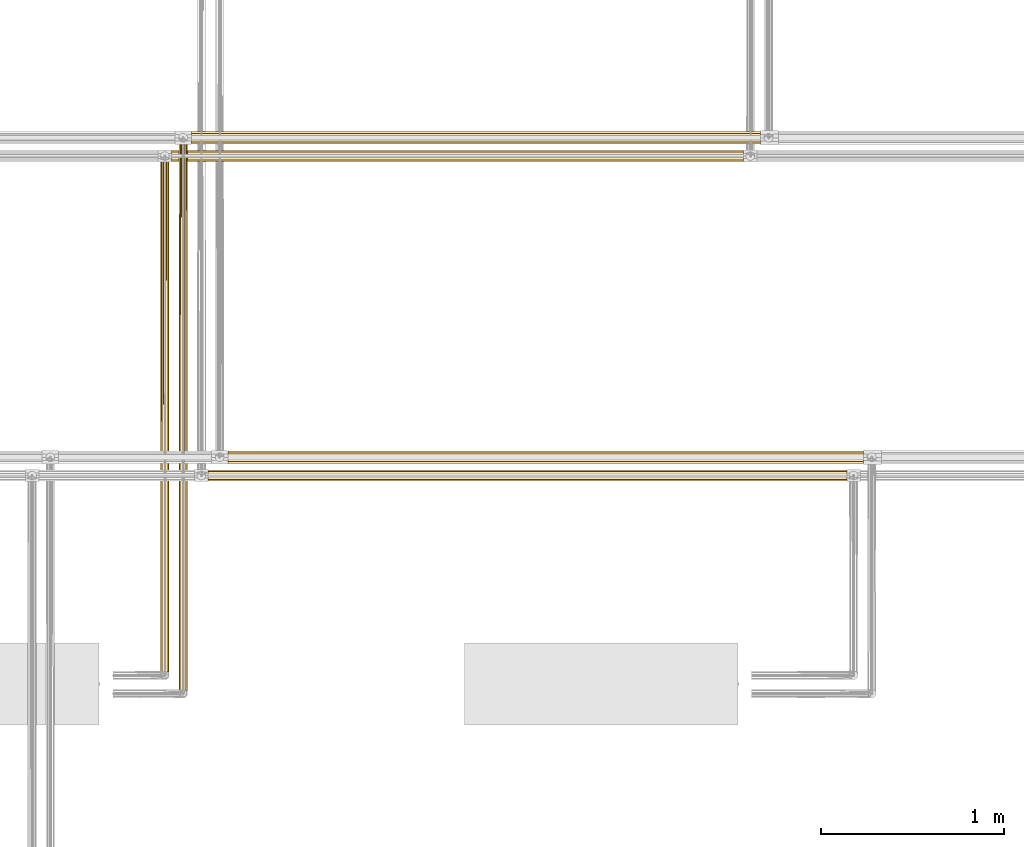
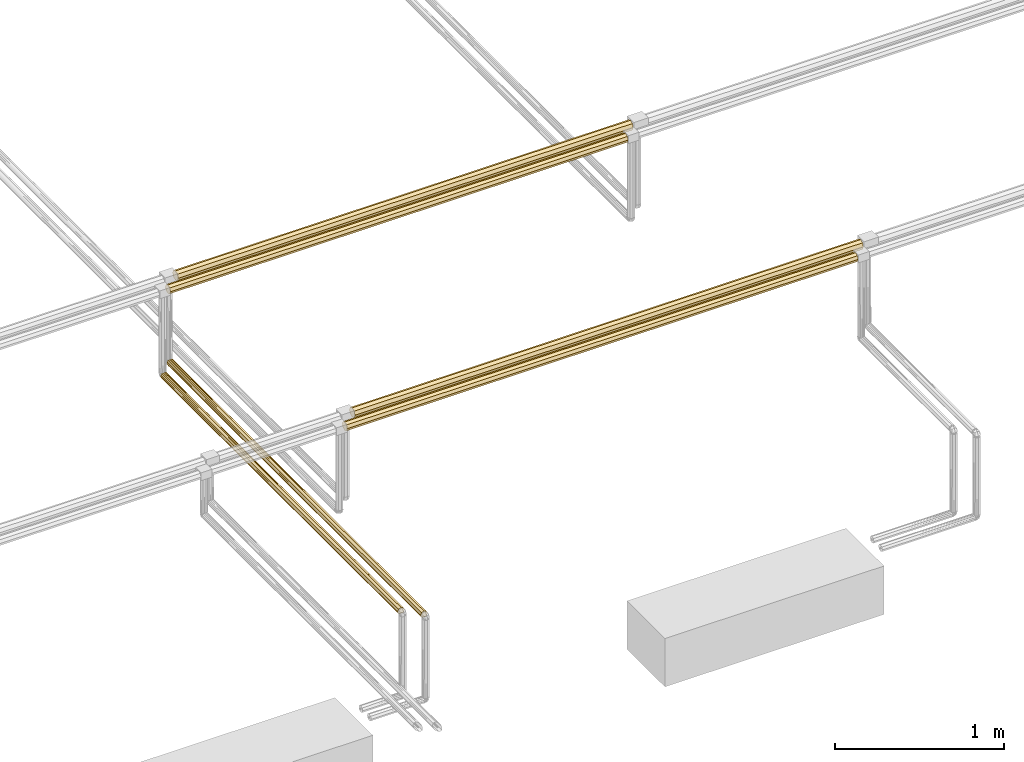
# One storey, part 127 of 652: 6 coverings.
"""IFC2X3 building model written with IfcOpenShell, lengths in millimetres."""

from ifc_helpers import new_model, entity, si_unit, converted_unit, direction, frame, origin, place, context, subcontext, project, spatial, faceted_brep, material, type_object, element, save


model = new_model("IFC2X3")

# Units and contexts
model_context = context("Model", 3, precision=0.01, world=frame((0.0, 0.0, 308426.39999999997)), true_north=direction((6.123233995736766e-17, 1.0)))
plan_context = context("Plan", 3, precision=0.01, world=frame((0.0, 0.0, 308426.39999999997)), true_north=direction((6.123233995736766e-17, 1.0)))
body_context = subcontext(model_context, "Body", "Model", "MODEL_VIEW")
ifc_project = project(units=[si_unit("LENGTHUNIT", "METRE", prefix="MILLI"), si_unit("AREAUNIT", "SQUARE_METRE"), si_unit("VOLUMEUNIT", "CUBIC_METRE"), converted_unit("PLANEANGLEUNIT", "DEGREE", entity("IfcPlaneAngleMeasure", 0.017453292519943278), si_unit("PLANEANGLEUNIT", "RADIAN"), dimensions=[0, 0, 0, 0, 0, 0, 0])], contexts=[model_context, plan_context])

# Site, building, storey
site_placement = place(None, origin())
site = spatial("IfcSite", under=ifc_project, at=site_placement, Name="Default", CompositionType="ELEMENT")
building_placement = place(site_placement, origin())
building = spatial("IfcBuilding", under=site, at=building_placement, CompositionType="ELEMENT")
storey_placement = place(building_placement, frame((0.0, 0.0, 1730.6999999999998)))
storey = spatial("IfcBuildingStorey", under=building, at=storey_placement, Name="EG_Produktion_FFB", CompositionType="ELEMENT", Elevation=1730.6999999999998)

# Coverings
ifc_material = material(Name="Dämmung - Armaflex-Schlauch")
covering_type = type_object("IfcCoveringType", Name="Rohrdämmung außen:Armaflex-Schlauch", PredefinedType="INSULATION")
covering_1_placement = place(storey_placement, frame((59105.74775000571, 69880.11722776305, 3865.1172277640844)))
element("IfcCovering", 1, at=covering_1_placement, inside=storey, type_object=covering_type, material=ifc_material, Name="Rohrdämmung außen:Armaflex-Schlauch", ObjectType="Rohrdämmung außen:Armaflex-Schlauch", PredefinedType="INSULATION", context=body_context, shape_type="Brep", body=[
    faceted_brep([(0.0, 1.5952722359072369, 34.88277223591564), (0.0, 3.836593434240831, 40.293800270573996), (0.0, 6.470113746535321, 46.65168072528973), (0.0, 8.907534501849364, 52.53613496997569), (0.0, 11.344955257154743, 58.42058921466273), (0.0, 17.229409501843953, 60.85800996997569), (0.0, 23.113863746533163, 63.295430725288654), (0.0, 28.99831799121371, 65.73285148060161), (0.0, 34.88277223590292, 68.17027223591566), (0.0, 40.29380027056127, 65.92895103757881), (0.0, 46.65168072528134, 63.295430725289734), (0.0, 52.536134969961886, 60.85800996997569), (0.0, 58.420589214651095, 58.42058921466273), (0.0, 60.85800996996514, 52.53613496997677), (0.0, 63.295430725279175, 46.65168072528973), (0.0, 65.73285148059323, 40.76722648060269), (0.0, 68.1702722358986, 34.88277223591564), (0.0, 65.73285148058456, 28.9983179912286), (0.0, 63.295430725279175, 23.113863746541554), (0.0, 60.85800996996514, 17.229409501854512), (0.0, 58.420589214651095, 11.34495525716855), (0.0, 52.536134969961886, 8.90753450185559), (0.0, 46.651680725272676, 6.470113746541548), (0.0, 40.76722648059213, 4.032692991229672), (0.0, 34.88277223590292, 1.595272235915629), (0.0, 29.471744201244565, 3.8365934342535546), (0.0, 23.113863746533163, 6.470113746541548), (0.0, 17.229409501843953, 8.90753450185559), (0.0, 11.344955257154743, 11.34495525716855), (0.0, 8.907534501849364, 17.229409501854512), (0.0, 6.470113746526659, 23.113863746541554), (0.0, 4.0326929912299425, 28.9983179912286), (3115.8169331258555, 17.229409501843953, 8.90753450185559), (3115.8169331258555, 23.113863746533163, 6.470113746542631), (3115.8169331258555, 28.998317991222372, 4.032692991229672), (3115.8169331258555, 34.88277223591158, 1.5952722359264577), (3115.8169331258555, 40.29380027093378, 3.8365934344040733), (3115.8169331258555, 45.70482830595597, 6.077914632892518), (3115.8169331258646, 52.06270876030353, 8.711434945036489), (3115.8169331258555, 58.420589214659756, 11.344955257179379), (3115.8169331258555, 60.8580099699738, 17.22940950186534), (3115.8169331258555, 63.295430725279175, 23.113863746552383), (3115.8169331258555, 65.73285148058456, 28.99831799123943), (3115.8169331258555, 68.17027223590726, 34.88277223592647), (3115.8169331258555, 65.92895103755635, 40.29380027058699), (3115.8169331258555, 63.68762983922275, 45.70482830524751), (3115.816933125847, 61.05410952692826, 52.06270875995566), (3115.8169331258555, 58.420589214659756, 58.42058921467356), (3115.8169331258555, 52.53613496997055, 60.85800996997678), (3115.8169331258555, 46.65168072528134, 63.295430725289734), (3115.8169331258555, 40.76722648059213, 65.73285148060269), (3115.8169331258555, 34.88277223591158, 68.17027223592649), (3115.8169331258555, 29.471744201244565, 65.92895103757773), (3115.8169331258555, 24.06071616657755, 63.687629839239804), (3115.8169331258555, 17.702835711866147, 61.05410952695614), (3115.8169331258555, 11.344955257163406, 58.42058921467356), (3115.8169331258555, 8.907534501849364, 52.53613496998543), (3115.8169331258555, 6.470113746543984, 46.65168072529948), (3115.8169331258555, 4.032692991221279, 40.76722648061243), (3115.8169331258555, 1.5952722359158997, 34.88277223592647), (3115.8169331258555, 3.836593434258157, 29.471744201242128), (3115.8169331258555, 6.077914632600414, 24.06071616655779), (3115.8169331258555, 8.71143494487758, 17.70283571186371), (3115.8169331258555, 11.344955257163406, 11.344955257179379)], [[[0, 1, 2, 3, 4, 5, 6, 7, 8, 9, 10, 11, 12, 13, 14, 15, 16, 17, 18, 19, 20, 21, 22, 23, 24, 25, 26, 27, 28, 29, 30, 31]], [[32, 33, 34, 35, 36, 37, 38, 39, 40, 41, 42, 43, 44, 45, 46, 47, 48, 49, 50, 51, 52, 53, 54, 55, 56, 57, 58, 59, 60, 61, 62, 63]], [[41, 40, 39, 20, 19, 18, 17, 16, 43, 42]], [[37, 36, 35, 24, 23, 22, 21, 20, 39, 38]], [[25, 24, 35, 34, 33, 32, 63, 28, 27, 26]], [[28, 63, 62, 61, 60, 59, 0, 31, 30, 29]], [[1, 0, 59, 58, 57, 56, 55, 4, 3, 2]], [[4, 55, 54, 53, 52, 51, 8, 7, 6, 5]], [[9, 8, 51, 50, 49, 48, 47, 12, 11, 10]], [[12, 47, 46, 45, 44, 43, 16, 15, 14, 13]]]),
])
covering_2_placement = place(storey_placement, frame((59305.74775000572, 68130.11722776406, 3865.117227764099)))
element("IfcCovering", 2, at=covering_2_placement, inside=storey, type_object=covering_type, material=ifc_material, Name="Rohrdämmung außen:Armaflex-Schlauch", ObjectType="Rohrdämmung außen:Armaflex-Schlauch", PredefinedType="INSULATION", context=body_context, shape_type="Brep", body=[
    faceted_brep([(3480.8169331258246, 68.17027223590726, 34.882772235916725), (3480.8169331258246, 66.16397696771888, 39.726397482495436), (3480.8169331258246, 63.295430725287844, 46.65168072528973), (3480.8169331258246, 60.8580099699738, 52.53613496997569), (3480.8169331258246, 58.420589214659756, 58.42058921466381), (3480.8169331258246, 52.53613496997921, 60.85800996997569), (3480.8169331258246, 46.65168072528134, 63.295430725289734), (3480.8169331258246, 40.76722648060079, 65.73285148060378), (3480.8169331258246, 34.88277223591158, 68.17027223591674), (3480.816933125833, 30.03914698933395, 66.1639769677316), (3480.8169331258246, 23.113863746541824, 63.29543072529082), (3480.8169331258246, 17.229409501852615, 60.85800996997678), (3480.8169331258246, 11.344955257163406, 58.42058921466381), (3480.8169331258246, 8.907534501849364, 52.53613496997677), (3480.8169331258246, 6.470113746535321, 46.65168072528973), (3480.8169331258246, 4.0326929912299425, 40.76722648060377), (3480.8169331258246, 1.5952722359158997, 34.882772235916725), (3480.8169331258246, 4.0326929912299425, 28.998317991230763), (3480.8169331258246, 6.470113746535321, 23.11386374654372), (3480.816933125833, 8.907534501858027, 17.229409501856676), (3480.8169331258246, 11.344955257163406, 11.344955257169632), (3480.8169331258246, 17.229409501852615, 8.907534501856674), (3480.8169331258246, 23.113863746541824, 6.4701137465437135), (3480.816933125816, 28.998317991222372, 4.032692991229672), (3480.8169331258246, 34.88277223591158, 1.595272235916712), (3480.8169331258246, 39.72639748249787, 3.6015675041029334), (3480.8169331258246, 46.65168072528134, 6.4701137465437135), (3480.8169331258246, 52.53613496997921, 8.907534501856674), (3480.8169331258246, 58.420589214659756, 11.344955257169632), (3480.8169331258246, 60.8580099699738, 17.229409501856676), (3480.8169331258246, 63.295430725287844, 23.11386374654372), (3480.8169331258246, 65.73285148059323, 28.99831799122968), (0.0, 52.53613496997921, 8.907534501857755), (0.0, 46.65168072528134, 6.4701137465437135), (0.0, 40.76722648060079, 4.032692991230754), (0.0, 34.88277223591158, 1.5952722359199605), (0.0, 25.195521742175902, 5.607862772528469), (0.0, 18.270238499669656, 8.476409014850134), (0.0, 11.344955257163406, 11.344955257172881), (0.0, 8.907534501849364, 17.229409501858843), (0.0, 6.470113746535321, 23.113863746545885), (0.0, 4.0326929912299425, 28.99831799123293), (0.0, 1.5952722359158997, 34.88277223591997), (0.0, 5.607862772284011, 44.57002272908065), (0.0, 8.476409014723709, 51.495305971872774), (0.0, 11.344955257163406, 58.42058921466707), (0.0, 17.229409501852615, 60.85800996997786), (0.0, 23.113863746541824, 63.29543072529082), (0.0, 28.998317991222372, 65.73285148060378), (0.0, 34.88277223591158, 68.17027223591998), (0.0, 44.570022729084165, 64.15768169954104), (0.0, 51.49530597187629, 61.28913545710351), (0.0, 58.420589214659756, 58.42058921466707), (0.0, 60.8580099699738, 52.53613496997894), (0.0, 63.295430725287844, 46.6516807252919), (0.0, 65.73285148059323, 40.767226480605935), (0.0, 68.17027223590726, 34.88277223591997), (0.0, 64.15768169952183, 25.195521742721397), (0.0, 61.289135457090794, 18.270238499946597), (0.0, 58.420589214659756, 11.344955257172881)], [[[0, 1, 2, 3, 4, 5, 6, 7, 8, 9, 10, 11, 12, 13, 14, 15, 16, 17, 18, 19, 20, 21, 22, 23, 24, 25, 26, 27, 28, 29, 30, 31]], [[32, 33, 34, 35, 36, 37, 38, 39, 40, 41, 42, 43, 44, 45, 46, 47, 48, 49, 50, 51, 52, 53, 54, 55, 56, 57, 58, 59]], [[40, 39, 38, 20, 19, 18, 17, 16, 42, 41]], [[36, 35, 24, 23, 22, 21, 20, 38, 37]], [[33, 32, 59, 28, 27, 26, 25, 24, 35, 34]], [[28, 59, 58, 57, 56, 0, 31, 30, 29]], [[54, 53, 52, 4, 3, 2, 1, 0, 56, 55]], [[4, 52, 51, 50, 49, 8, 7, 6, 5]], [[47, 46, 45, 12, 11, 10, 9, 8, 49, 48]], [[12, 45, 44, 43, 42, 16, 15, 14, 13]]]),
])
covering_3_placement = place(storey_placement, frame((58997.048250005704, 69783.29222776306, 3868.2922277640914)))
element("IfcCovering", 3, at=covering_3_placement, inside=storey, type_object=covering_type, material=ifc_material, Name="Rohrdämmung außen:Armaflex-Schlauch", ObjectType="Rohrdämmung außen:Armaflex-Schlauch", PredefinedType="INSULATION", context=body_context, shape_type="Brep", body=[
    faceted_brep([(3133.215933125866, 61.82027223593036, 31.707772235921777), (3133.215933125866, 59.9025568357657, 36.33754676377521), (3133.215933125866, 57.410398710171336, 42.35414871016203), (3133.215933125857, 55.205461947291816, 47.67733694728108), (3133.215933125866, 53.000525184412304, 53.000525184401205), (3133.215933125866, 47.67733694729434, 55.20546194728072), (3133.215933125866, 42.35414871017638, 57.41039871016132), (3133.215933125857, 37.03096047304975, 59.61533547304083), (3133.215933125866, 31.707772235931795, 61.82027223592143), (3133.215933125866, 27.077997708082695, 59.90255683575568), (3133.215933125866, 21.06139576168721, 57.41039871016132), (3133.215933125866, 15.738207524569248, 55.2054619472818), (3133.215933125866, 10.415019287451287, 53.000525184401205), (3133.215933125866, 8.210082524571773, 47.67733694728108), (3133.215933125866, 6.005145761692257, 42.35414871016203), (3133.215933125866, 3.800208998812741, 37.0309604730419), (3133.215933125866, 1.5952722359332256, 31.707772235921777), (3133.215933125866, 3.800208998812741, 26.384583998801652), (3133.215933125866, 6.005145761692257, 21.061395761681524), (3133.215933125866, 8.210082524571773, 15.73820752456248), (3133.215933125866, 10.415019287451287, 10.415019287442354), (3133.215933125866, 15.738207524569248, 8.210082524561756), (3133.215933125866, 21.06139576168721, 6.00514576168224), (3133.215933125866, 26.384583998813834, 3.8002089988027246), (3133.215933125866, 31.707772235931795, 1.5952722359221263), (3133.215933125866, 36.33754676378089, 3.5129876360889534), (3133.215933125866, 42.35414871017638, 6.00514576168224), (3133.215933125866, 47.677336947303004, 8.210082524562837), (3133.215933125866, 53.000525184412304, 10.415019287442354), (3133.215933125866, 55.205461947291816, 15.73820752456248), (3133.215933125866, 57.410398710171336, 21.061395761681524), (3133.215933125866, 59.61533547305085, 26.384583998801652), (0.0, 47.67733694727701, 8.210082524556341), (0.0, 42.35414871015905, 6.005145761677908), (0.0, 37.03096047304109, 3.8002089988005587), (0.0, 31.70777223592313, 1.595272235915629), (0.0, 22.448223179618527, 5.430703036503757), (0.0, 16.43162123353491, 7.922861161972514), (0.0, 10.415019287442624, 10.415019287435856), (0.0, 8.210082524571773, 15.738207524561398), (0.0, 6.005145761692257, 21.061395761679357), (0.0, 3.800208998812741, 26.384583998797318), (0.0, 1.5952722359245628, 31.707772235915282), (0.0, 5.430703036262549, 40.967321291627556), (0.0, 7.922861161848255, 46.98392323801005), (0.0, 10.415019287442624, 53.000525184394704), (0.0, 15.738207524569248, 55.2054619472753), (0.0, 21.06139576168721, 57.41039871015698), (0.0, 26.384583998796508, 59.61533547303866), (0.0, 31.70777223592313, 61.820272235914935), (0.0, 40.967321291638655, 57.984841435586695), (0.0, 46.983923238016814, 55.49268330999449), (0.0, 53.000525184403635, 53.000525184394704), (0.0, 55.205461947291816, 47.67733694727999), (0.0, 57.410398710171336, 42.35414871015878), (0.0, 59.61533547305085, 37.030960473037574), (0.0, 61.8202722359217, 31.707772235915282), (0.0, 57.98484143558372, 22.44822318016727), (0.0, 55.492683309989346, 16.431621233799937), (0.0, 53.000525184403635, 10.415019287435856)], [[[0, 1, 2, 3, 4, 5, 6, 7, 8, 9, 10, 11, 12, 13, 14, 15, 16, 17, 18, 19, 20, 21, 22, 23, 24, 25, 26, 27, 28, 29, 30, 31]], [[32, 33, 34, 35, 36, 37, 38, 39, 40, 41, 42, 43, 44, 45, 46, 47, 48, 49, 50, 51, 52, 53, 54, 55, 56, 57, 58, 59]], [[40, 39, 38, 20, 19, 18, 17, 16, 42, 41]], [[36, 35, 24, 23, 22, 21, 20, 38, 37]], [[33, 32, 59, 28, 27, 26, 25, 24, 35, 34]], [[28, 59, 58, 57, 56, 0, 31, 30, 29]], [[54, 53, 52, 4, 3, 2, 1, 0, 56, 55]], [[4, 52, 51, 50, 49, 8, 7, 6, 5]], [[47, 46, 45, 12, 11, 10, 9, 8, 49, 48]], [[12, 45, 44, 43, 42, 16, 15, 14, 13]]]),
])
covering_4_placement = place(storey_placement, frame((59197.04825000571, 68033.29222776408, 3868.292227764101)))
element("IfcCovering", 4, at=covering_4_placement, inside=storey, type_object=covering_type, material=ifc_material, Name="Rohrdämmung außen:Armaflex-Schlauch", ObjectType="Rohrdämmung außen:Armaflex-Schlauch", PredefinedType="INSULATION", context=body_context, shape_type="Brep", body=[
    faceted_brep([(3498.215933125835, 61.82027223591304, 31.707772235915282), (3498.215933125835, 60.10264914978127, 35.85448118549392), (3498.215933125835, 57.410398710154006, 42.354148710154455), (3498.215933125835, 55.205461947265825, 47.677336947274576), (3498.215933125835, 53.000525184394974, 53.000525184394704), (3498.215933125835, 47.67733694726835, 55.2054619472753), (3498.215933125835, 42.35414871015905, 57.410398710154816), (3498.215933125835, 37.03096047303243, 59.615335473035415), (3498.215933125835, 31.70777223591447, 61.820272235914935), (3498.215933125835, 27.5610632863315, 60.10264914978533), (3498.215933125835, 21.061395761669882, 57.410398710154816), (3498.2159331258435, 15.738207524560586, 55.2054619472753), (3498.215933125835, 10.415019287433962, 53.000525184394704), (3498.215933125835, 8.210082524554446, 47.677336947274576), (3498.215933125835, 6.005145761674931, 42.354148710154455), (3498.2159331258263, 3.8002089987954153, 37.03096047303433), (3498.215933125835, 1.5952722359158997, 31.707772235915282), (3498.215933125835, 3.8002089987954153, 26.384583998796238), (3498.215933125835, 6.005145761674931, 21.06139576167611), (3498.215933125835, 8.210082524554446, 15.738207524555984), (3498.215933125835, 10.415019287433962, 10.415019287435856), (3498.215933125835, 15.738207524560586, 8.210082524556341), (3498.215933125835, 21.061395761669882, 6.005145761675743), (3498.215933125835, 26.384583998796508, 3.8002089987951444), (3498.215933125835, 31.70777223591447, 1.595272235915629), (3498.215933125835, 35.854481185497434, 3.3128953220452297), (3498.215933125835, 42.35414871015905, 6.005145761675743), (3498.215933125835, 47.67733694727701, 8.210082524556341), (3498.215933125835, 53.000525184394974, 10.415019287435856), (3498.215933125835, 55.20546194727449, 15.738207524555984), (3498.215933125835, 57.410398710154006, 21.06139576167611), (3498.215933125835, 59.615335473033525, 26.384583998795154), (0.0, 47.67733694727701, 8.210082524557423), (0.0, 42.35414871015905, 6.005145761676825), (0.0, 37.03096047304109, 3.8002089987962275), (0.0, 31.70777223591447, 1.5952722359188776), (0.0, 23.414354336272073, 5.030518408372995), (0.0, 16.914686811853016, 7.722768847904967), (0.0, 10.415019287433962, 10.415019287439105), (0.0, 8.210082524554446, 15.738207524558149), (0.0, 6.005145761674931, 21.061395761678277), (0.0, 3.8002089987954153, 26.3845839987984), (0.0, 1.5952722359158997, 31.70777223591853), (0.0, 5.03051840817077, 40.00119013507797), (0.0, 7.722768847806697, 46.5008576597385), (0.0, 10.415019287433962, 53.00052518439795), (0.0, 15.738207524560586, 55.20546194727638), (0.0, 21.061395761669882, 57.4103987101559), (0.0, 26.384583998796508, 59.615335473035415), (0.0, 31.70777223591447, 61.82027223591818), (0.0, 40.0011901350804, 58.38502606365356), (0.0, 46.500857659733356, 55.69277562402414), (0.0, 53.000525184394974, 53.00052518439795), (0.0, 55.20546194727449, 47.67733694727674), (0.0, 57.410398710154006, 42.354148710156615), (0.0, 59.615335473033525, 37.030960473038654), (0.0, 61.82027223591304, 31.70777223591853), (0.0, 58.385026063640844, 23.414354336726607), (0.0, 55.69277562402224, 16.914686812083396), (0.0, 53.000525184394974, 10.415019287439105)], [[[0, 1, 2, 3, 4, 5, 6, 7, 8, 9, 10, 11, 12, 13, 14, 15, 16, 17, 18, 19, 20, 21, 22, 23, 24, 25, 26, 27, 28, 29, 30, 31]], [[32, 33, 34, 35, 36, 37, 38, 39, 40, 41, 42, 43, 44, 45, 46, 47, 48, 49, 50, 51, 52, 53, 54, 55, 56, 57, 58, 59]], [[40, 39, 38, 20, 19, 18, 17, 16, 42, 41]], [[36, 35, 24, 23, 22, 21, 20, 38, 37]], [[33, 32, 59, 28, 27, 26, 25, 24, 35, 34]], [[28, 59, 58, 57, 56, 0, 31, 30, 29]], [[54, 53, 52, 4, 3, 2, 1, 0, 56, 55]], [[4, 52, 51, 50, 49, 8, 7, 6, 5]], [[47, 46, 45, 12, 11, 10, 9, 8, 49, 48]], [[12, 45, 44, 43, 42, 16, 15, 14, 13]]]),
])
covering_5_placement = place(storey_placement, frame((59034.64222776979, 66886.39153550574, 3274.6422277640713)))
element("IfcCovering", 5, at=covering_5_placement, inside=storey, type_object=covering_type, material=ifc_material, Name="Rohrdämmung außen:Armaflex-Schlauch", ObjectType="Rohrdämmung außen:Armaflex-Schlauch", PredefinedType="INSULATION", context=body_context, shape_type="Brep", body=[
    faceted_brep([(9.787128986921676, 3010.6582144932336, 43.30802223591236), (40.92841548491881, 3010.6582144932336, 43.30802223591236), (43.951164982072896, 3010.6582144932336, 39.26743877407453), (46.973914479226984, 3010.6582144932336, 35.22685531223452), (48.047093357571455, 3010.6582144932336, 30.292313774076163), (49.12027223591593, 3010.6582144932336, 25.357772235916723), (47.3803034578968, 3010.6582144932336, 21.15711601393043), (45.64033467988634, 3010.6582144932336, 16.956459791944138), (43.90036590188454, 3010.6582144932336, 12.755803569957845), (42.160397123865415, 3010.6582144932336, 8.555147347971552), (37.95974090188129, 3010.6582144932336, 6.815178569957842), (33.759084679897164, 3010.6582144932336, 5.075209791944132), (29.558428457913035, 3010.6582144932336, 3.335241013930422), (25.357772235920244, 3010.6582144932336, 1.595272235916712), (21.157116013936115, 3010.6582144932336, 3.335241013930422), (16.956459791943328, 3010.6582144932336, 5.075209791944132), (12.755803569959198, 3010.6582144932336, 6.815178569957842), (8.55514734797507, 3010.6582144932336, 8.555147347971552), (6.81517856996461, 3010.6582144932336, 12.755803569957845), (5.075209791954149, 3010.6582144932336, 16.956459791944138), (2.995056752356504, 3010.6582144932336, 21.97839347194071), (1.5952722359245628, 3010.6582144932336, 25.357772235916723), (2.6684511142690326, 3010.6582144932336, 30.292313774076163), (3.7416299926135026, 3010.6582144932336, 35.22685531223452), (6.764379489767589, 3010.6582144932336, 39.26743877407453), (1.5952722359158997, 1.5952722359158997, 25.357772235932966), (2.6684511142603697, 1.5952722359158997, 20.42323069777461), (3.7416299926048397, 1.5952722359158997, 15.488689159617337), (6.764379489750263, 1.5952722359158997, 11.448105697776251), (9.78712898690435, 1.5952722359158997, 7.407522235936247), (40.92841548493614, 1.5952722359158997, 7.407522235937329), (43.95116498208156, 1.5952722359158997, 11.448105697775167), (46.973914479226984, 1.5952722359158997, 15.488689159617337), (48.047093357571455, 1.5952722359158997, 20.42323069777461), (49.12027223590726, 1.5952722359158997, 25.357772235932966), (47.72048771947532, 1.5952722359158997, 28.737150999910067), (45.64033467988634, 1.5952722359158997, 33.75908467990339), (43.90036590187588, 1.5952722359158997, 37.95974090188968), (42.160397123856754, 1.5952722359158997, 42.16039712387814), (37.95974090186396, 1.5952722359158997, 43.90036590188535), (33.759084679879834, 1.5952722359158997, 45.640334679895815), (29.55842845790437, 1.5952722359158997, 47.38030345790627), (25.35777223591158, 1.5952722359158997, 49.12027223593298), (21.157116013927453, 1.5952722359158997, 47.38030345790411), (16.956459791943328, 1.5952722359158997, 45.64033467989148), (12.755803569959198, 1.5952722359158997, 43.90036590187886), (8.55514734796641, 1.5952722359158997, 42.16039712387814), (6.81517856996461, 1.5952722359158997, 37.95974090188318), (5.075209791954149, 1.5952722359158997, 33.759084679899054), (3.335241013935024, 1.5952722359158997, 29.558428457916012), (33.66781407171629, 5.90708887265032, 3.0957055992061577), (37.29811477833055, 3.75118055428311, 5.251613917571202), (29.512793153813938, 6.6573055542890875, 2.3454889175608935), (25.35777223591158, 7.407522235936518, 1.595272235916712), (21.202751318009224, 6.6573055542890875, 2.3454889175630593), (17.04773040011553, 5.9070888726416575, 3.0957055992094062), (13.41742969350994, 3.75118055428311, 5.251613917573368), (21.20275131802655, 3005.5961811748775, 48.370055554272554), (13.417429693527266, 3008.502306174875, 45.46393055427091), (17.047730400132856, 3006.3463978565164, 47.61983887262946), (25.357772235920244, 3004.84596449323, 49.12027223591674), (29.512793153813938, 3005.5961811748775, 48.37005555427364), (33.66781407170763, 3006.3463978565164, 47.61983887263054), (37.29811477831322, 3008.502306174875, 45.46393055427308)], [[[0, 1, 2, 3, 4, 5, 6, 7, 8, 9, 10, 11, 12, 13, 14, 15, 16, 17, 18, 19, 20, 21, 22, 23, 24]], [[25, 26, 27, 28, 29, 30, 31, 32, 33, 34, 35, 36, 37, 38, 39, 40, 41, 42, 43, 44, 45, 46, 47, 48, 49]], [[34, 6, 5]], [[11, 50, 12]], [[6, 34, 33]], [[33, 7, 6]], [[30, 9, 31]], [[10, 30, 51]], [[51, 50, 11]], [[52, 53, 13]], [[32, 31, 8]], [[31, 9, 8]], [[32, 8, 7]], [[12, 50, 52]], [[9, 30, 10]], [[33, 32, 7]], [[51, 11, 10]], [[52, 13, 12]], [[53, 54, 13]], [[26, 25, 20]], [[14, 54, 55]], [[27, 18, 28]], [[56, 15, 55]], [[17, 29, 28]], [[27, 26, 19]], [[19, 26, 20]], [[13, 54, 14]], [[28, 18, 17]], [[25, 21, 20]], [[27, 19, 18]], [[15, 56, 16]], [[29, 16, 56]], [[14, 55, 15]], [[16, 29, 17]], [[24, 47, 46]], [[25, 49, 21]], [[48, 23, 22]], [[48, 47, 23]], [[42, 57, 43]], [[0, 45, 58]], [[59, 44, 43]], [[22, 49, 48]], [[44, 59, 58]], [[23, 47, 24]], [[57, 59, 43]], [[21, 49, 22]], [[46, 0, 24]], [[60, 57, 42]], [[45, 0, 46]], [[45, 44, 58]], [[42, 61, 60]], [[4, 36, 35]], [[61, 42, 41]], [[62, 40, 63]], [[2, 38, 37]], [[38, 2, 1]], [[36, 4, 3]], [[1, 39, 38]], [[40, 62, 41]], [[35, 5, 4]], [[1, 63, 39]], [[37, 3, 2]], [[37, 36, 3]], [[41, 62, 61]], [[35, 34, 5]], [[63, 40, 39]], [[1, 0, 58, 59, 57, 60, 61, 62, 63]], [[30, 29, 56, 55, 54, 53, 52, 50, 51]]]),
])
covering_6_placement = place(storey_placement, frame((58934.64222776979, 66986.39153550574, 3274.642227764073)))
element("IfcCovering", 6, at=covering_6_placement, inside=storey, type_object=covering_type, material=ifc_material, Name="Rohrdämmung außen:Armaflex-Schlauch", ObjectType="Rohrdämmung außen:Armaflex-Schlauch", PredefinedType="INSULATION", context=body_context, shape_type="Brep", body=[
    faceted_brep([(9.787128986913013, 2810.658214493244, 43.30802223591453), (40.92841548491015, 2810.658214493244, 43.308022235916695), (43.95116498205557, 2810.6582144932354, 39.26743877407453), (46.97391447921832, 2810.658214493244, 35.22685531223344), (48.047093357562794, 2810.658214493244, 30.292313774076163), (49.12027223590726, 2810.658214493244, 25.357772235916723), (47.3803034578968, 2810.658214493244, 21.15711601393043), (45.64033467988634, 2810.658214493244, 16.956459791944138), (43.90036590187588, 2810.6582144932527, 12.755803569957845), (42.160397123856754, 2810.658214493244, 8.555147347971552), (37.95974090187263, 2810.658214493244, 6.815178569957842), (33.759084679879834, 2810.658214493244, 5.075209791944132), (29.558428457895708, 2810.6582144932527, 3.335241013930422), (25.35777223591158, 2810.658214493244, 1.595272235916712), (21.157116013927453, 2810.658214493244, 3.335241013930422), (16.956459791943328, 2810.6582144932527, 5.075209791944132), (12.755803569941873, 2810.658214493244, 6.815178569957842), (8.55514734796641, 2810.658214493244, 8.555147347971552), (6.815178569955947, 2810.658214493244, 12.755803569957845), (5.075209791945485, 2810.6582144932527, 16.956459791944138), (3.0947187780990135, 2810.658214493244, 21.73778805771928), (1.5952722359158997, 2810.658214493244, 25.357772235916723), (2.6684511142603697, 2810.658214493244, 30.292313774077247), (3.7416299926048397, 2810.658214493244, 35.22685531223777), (6.764379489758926, 2810.658214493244, 39.26743877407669), (1.5952722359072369, 1.5952722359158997, 25.357772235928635), (2.6684511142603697, 1.5952722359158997, 20.42323069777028), (3.741629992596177, 1.5952722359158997, 15.488689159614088), (6.764379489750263, 1.5952722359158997, 11.448105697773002), (9.787128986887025, 1.5952722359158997, 7.407522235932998), (40.92841548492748, 1.5952722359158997, 7.407522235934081), (43.951164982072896, 1.5952722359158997, 11.448105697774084), (46.97391447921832, 1.5952722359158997, 15.488689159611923), (48.047093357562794, 1.5952722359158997, 20.42323069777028), (49.1202722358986, 1.5952722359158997, 25.357772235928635), (47.62082569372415, 1.5952722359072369, 28.977756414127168), (45.640334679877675, 1.5952722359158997, 33.75908467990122), (43.90036590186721, 1.5952722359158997, 37.959740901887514), (42.16039712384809, 1.5952722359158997, 42.16039712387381), (37.95974090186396, 1.5952722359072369, 43.90036590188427), (33.759084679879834, 1.5952722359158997, 45.64033467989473), (29.558428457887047, 1.5952722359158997, 47.38030345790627), (25.357772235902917, 1.5952722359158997, 49.120272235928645), (21.15711601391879, 1.5952722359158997, 47.38030345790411), (16.956459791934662, 1.5952722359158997, 45.6403346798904), (12.755803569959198, 1.5952722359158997, 43.90036590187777), (8.555147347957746, 1.5952722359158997, 42.16039712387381), (6.815178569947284, 1.5952722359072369, 37.95974090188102), (5.075209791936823, 1.5952722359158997, 33.75908467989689), (3.3352410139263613, 1.5952722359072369, 29.558428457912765), (33.66781407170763, 5.9070888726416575, 3.0957055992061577), (37.29811477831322, 3.751180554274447, 5.251613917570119), (29.512793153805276, 6.657305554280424, 2.3454889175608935), (25.357772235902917, 7.407522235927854, 1.595272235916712), (21.202751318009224, 6.657305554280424, 2.3454889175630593), (17.047730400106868, 5.907088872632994, 3.0957055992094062), (13.417429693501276, 3.751180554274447, 5.251613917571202), (21.202751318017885, 2805.59618117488, 48.37005555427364), (13.417429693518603, 2808.5023061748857, 45.46393055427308), (17.04773040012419, 2806.346397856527, 47.61983887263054), (25.35777223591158, 2804.845964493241, 49.12027223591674), (29.512793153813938, 2805.5961811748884, 48.37005555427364), (33.66781407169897, 2806.346397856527, 47.61983887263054), (37.29811477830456, 2808.5023061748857, 45.46393055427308)], [[[0, 1, 2, 3, 4, 5, 6, 7, 8, 9, 10, 11, 12, 13, 14, 15, 16, 17, 18, 19, 20, 21, 22, 23, 24]], [[25, 26, 27, 28, 29, 30, 31, 32, 33, 34, 35, 36, 37, 38, 39, 40, 41, 42, 43, 44, 45, 46, 47, 48, 49]], [[34, 6, 5]], [[11, 50, 12]], [[6, 34, 33]], [[33, 7, 6]], [[30, 9, 31]], [[10, 30, 51]], [[51, 50, 11]], [[52, 53, 13]], [[32, 31, 8]], [[31, 9, 8]], [[32, 8, 7]], [[12, 50, 52]], [[9, 30, 10]], [[33, 32, 7]], [[51, 11, 10]], [[52, 13, 12]], [[53, 54, 13]], [[26, 25, 20]], [[14, 54, 55]], [[27, 18, 28]], [[56, 15, 55]], [[17, 29, 28]], [[27, 26, 19]], [[19, 26, 20]], [[13, 54, 14]], [[28, 18, 17]], [[25, 21, 20]], [[27, 19, 18]], [[15, 56, 16]], [[29, 16, 56]], [[14, 55, 15]], [[16, 29, 17]], [[24, 47, 46]], [[25, 49, 21]], [[48, 23, 22]], [[48, 47, 23]], [[42, 57, 43]], [[0, 45, 58]], [[59, 44, 43]], [[22, 49, 48]], [[44, 59, 58]], [[23, 47, 24]], [[57, 59, 43]], [[21, 49, 22]], [[46, 0, 24]], [[60, 57, 42]], [[45, 0, 46]], [[45, 44, 58]], [[42, 61, 60]], [[4, 36, 35]], [[61, 42, 41]], [[62, 40, 63]], [[2, 38, 37]], [[38, 2, 1]], [[36, 4, 3]], [[1, 39, 38]], [[40, 62, 41]], [[35, 5, 4]], [[1, 63, 39]], [[37, 3, 2]], [[37, 36, 3]], [[41, 62, 61]], [[35, 34, 5]], [[63, 40, 39]], [[62, 63, 1, 0, 58, 59, 57, 60, 61]], [[30, 29, 56, 55, 54, 53, 52, 50, 51]]]),
])

save(model, "model.ifc")
